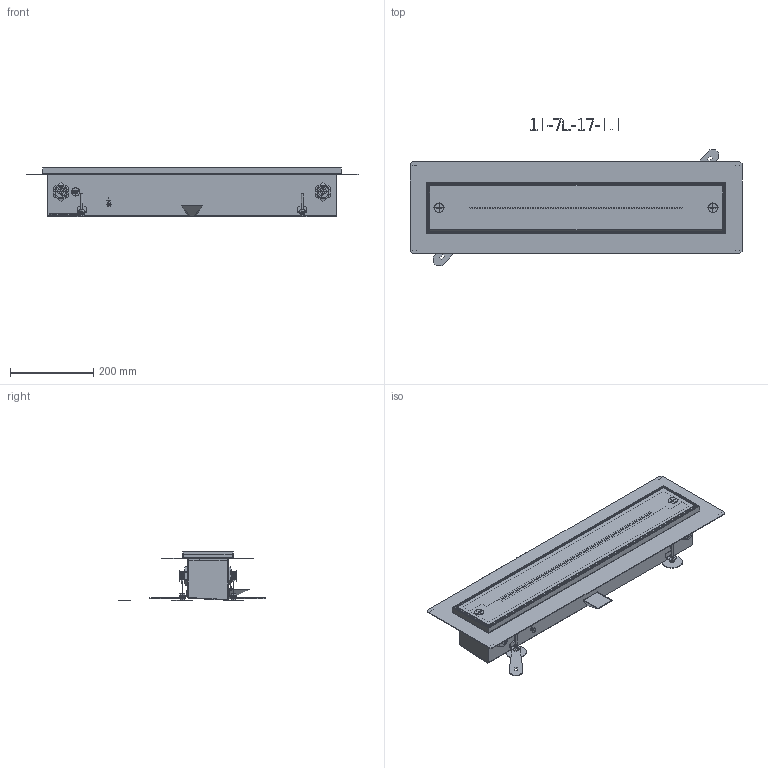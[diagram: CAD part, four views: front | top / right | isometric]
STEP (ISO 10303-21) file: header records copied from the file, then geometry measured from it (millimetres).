
FILE_DESCRIPTION(/* description */ (''),/* implementation_level */ '2;1');
FILE_NAME(/* name */ '3d-Joulia_10-72-17-0.0',/* time_stamp */ '2025-01-20T16:07:56+01:00',/* author */ (''),/* organization */ (''),/* preprocessor_version */ 'ST-DEVELOPER v16.5',/* originating_system */ 'Rhino 7.37',/* authorisation */ '');
FILE_SCHEMA (('AUTOMOTIVE_DESIGN_CC2'));
Products named in the file (1): Document
Bounding box: 798.7 x 355.05 x 119.31 mm (x, y, z)
Volume: 975657.3 mm3; surface area: 1313719.2 mm2
Topology: 28 solids, 119 shells, 1857 faces, 5003 edges, 3290 vertices
Faces by surface type: bspline 1857
Entity records: 192321 total; most frequent: CARTESIAN_POINT 130404, B_SPLINE_CURVE_WITH_KNOTS 11714, ORIENTED_EDGE 9474, PCURVE 9474, DEFINITIONAL_REPRESENTATION 9474, SURFACE_CURVE 4934, EDGE_CURVE 4934, VERTEX_POINT 3280
